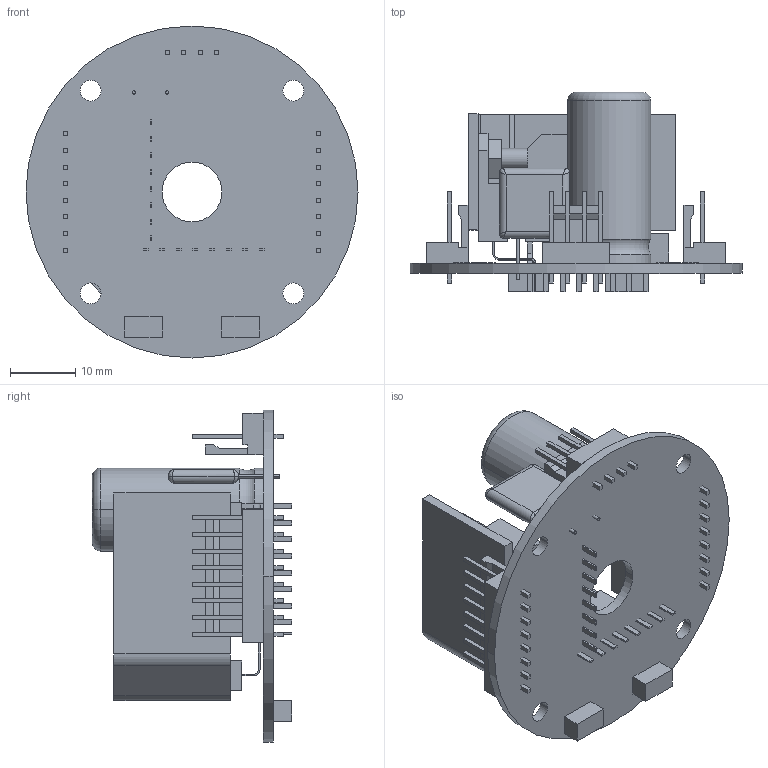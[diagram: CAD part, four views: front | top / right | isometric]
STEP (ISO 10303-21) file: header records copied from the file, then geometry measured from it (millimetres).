
FILE_DESCRIPTION((''),'2;1');
FILE_NAME('E2HK23_ASM','2008-09-02T',('yeevh'),(''),'PRO/ENGINEER BY PARAMETRIC TECHNOLOGY CORPORATION, 2006300','PRO/ENGINEER BY PARAMETRIC TECHNOLOGY CORPORATION, 2006300','');
FILE_SCHEMA(('CONFIG_CONTROL_DESIGN'));
Length unit declared in the file: inch
Products named in the file (12): PCB_3; SINK_1; RECTIFIER_1; NUT; RECTIFIER_ASM; CONNECTOR_8PIN; CONNECTOR_4PIN; CAPACITOR_1; COIL_5; POT_1; IC; E2HK23_ASM
Assembly tree (15 placements, depth 3):
  E2HK23_ASM
    PCB_3
    RECTIFIER_ASM
      SINK_1
      RECTIFIER_1  x2
      NUT  x2
    CONNECTOR_8PIN  x2
    CONNECTOR_4PIN
    CAPACITOR_1
    COIL_5
    POT_1
    IC  x2
Bounding box: 50.8 x 30.48 x 50.8 mm (x, y, z)
Volume: 12004.3 mm3; surface area: 13419.1 mm2
Topology: 14 solids, 14 shells, 643 faces, 1614 edges, 1066 vertices
Faces by surface type: plane 509, cylinder 122, bspline 8, torus 4
Entity records: 12905 total; most frequent: CARTESIAN_POINT 2768, ORIENTED_EDGE 2022, DIRECTION 2007, EDGE_CURVE 1011, VECTOR 825, LINE 825, VERTEX_POINT 664, AXIS2_PLACEMENT_3D 591
